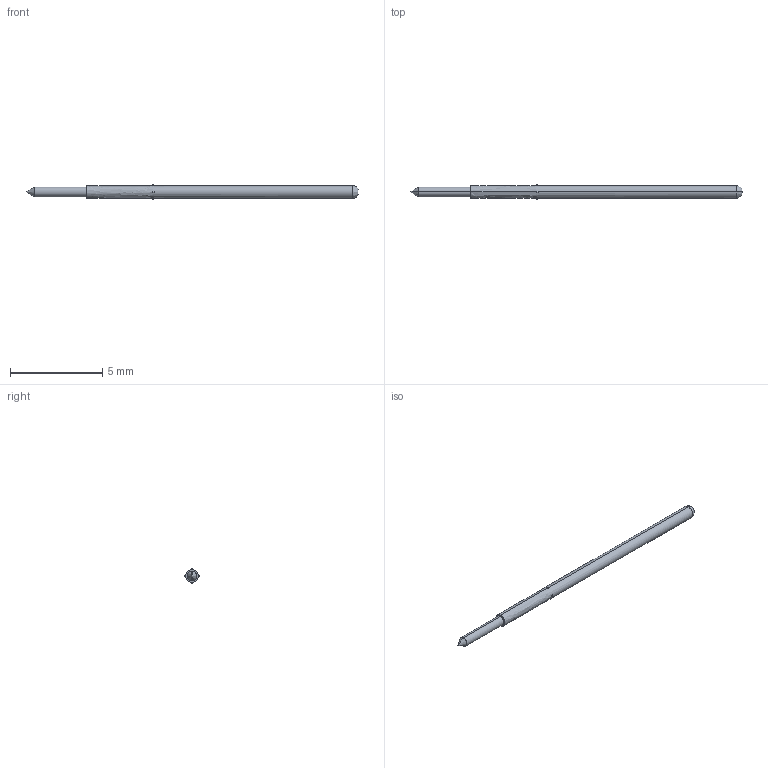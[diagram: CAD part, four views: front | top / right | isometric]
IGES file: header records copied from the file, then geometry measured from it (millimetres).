
Start section: SolidWorks IGES file using analytic representation for surfaces
Global section: file name: O:\PYLON\IGES FILES\P2662A\P2662A-1C1S.IGS; native system: SolidWorks 2015; preprocessor: SolidWorks 2015; author: kgolden; date: 171019.084519; units: inch
Bounding box: 18 x 0.79 x 0.79 mm (x, y, z)
Surface area: 39.7 mm2 (no closed solid volume)
Topology: 0 solids, 0 shells, 20 faces, 184 edges, 166 vertices
Faces by surface type: revolution 16, bspline 4
